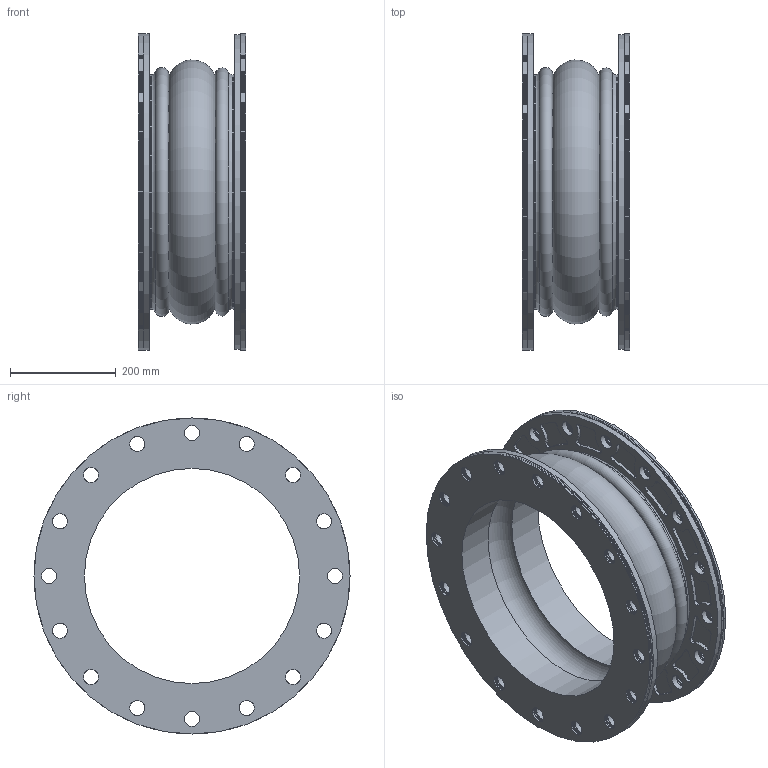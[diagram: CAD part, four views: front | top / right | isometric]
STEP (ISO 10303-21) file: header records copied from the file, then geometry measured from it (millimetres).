
FILE_DESCRIPTION((''),'2;1');
FILE_NAME('N:\StockJoints-ADSK, IGES, STEP, PNG\STEP\451 16x8.stp','2013-05-23T12:05:27',('mquog'),(''),'Autodesk Inventor 2011','Autodesk Inventor 2011','');
FILE_SCHEMA(('AUTOMOTIVE_DESIGN { 1 0 10303 214 1 1 1 1 }'));
Length unit declared in the file: inch
Products named in the file (3): 451 16x8; Style451 16x8; 16DI450BUR150
Assembly tree (3 placements, depth 2):
  451 16x8
    Style451 16x8
    16DI450BUR150  x2
Bounding box: 203.2 x 596.95 x 596.95 mm (x, y, z)
Volume: 10135853.7 mm3; surface area: 9160691.8 mm2
Topology: 14 solids, 14 shells, 754 faces, 1982 edges, 1298 vertices
Faces by surface type: cylinder 628, plane 70, torus 52, cone 4
Full cylindrical faces by diameter (mm): 28.575 x256, 406.4 x2, 412.75 x4, 419.1 x8, 421.132 x4, 423.164 x4, 425.196 x4, 427.228 x4, 430.403 x2, 438.15 x2, 593.725 x14, 596.9 x2, 596.946 x2
Entity records: 16863 total; most frequent: DIRECTION 3148, CARTESIAN_POINT 2590, ORIENTED_EDGE 2192, AXIS2_PLACEMENT_3D 1494, EDGE_LOOP 1424, EDGE_CURVE 1096, VERTEX_POINT 936, CIRCLE 936
